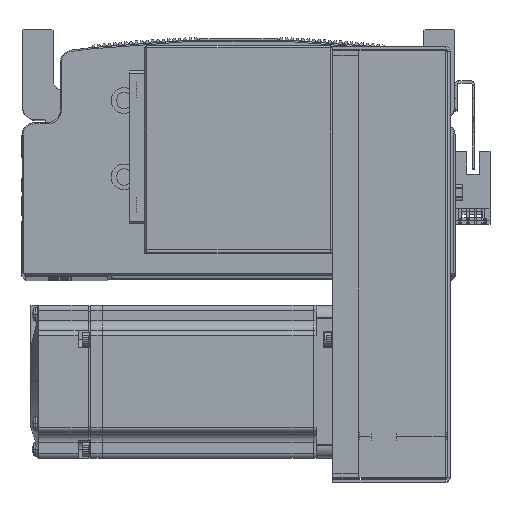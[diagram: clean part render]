
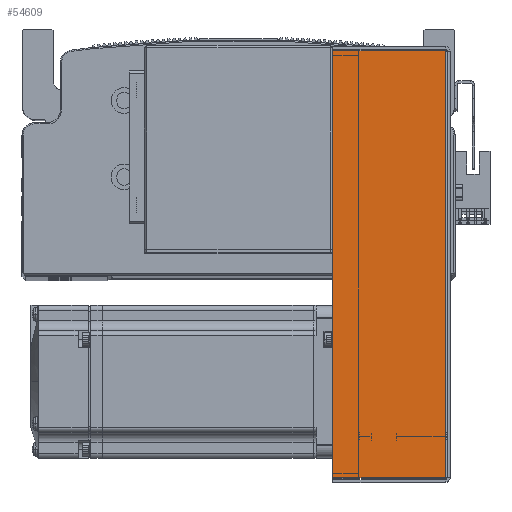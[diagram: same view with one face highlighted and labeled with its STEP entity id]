
A CAD part, top view. The second image highlights one B-rep face of the part: STEP entity #54609.
In plain terms, the highlighted planar face has unit normal (0, 0, 1) as drawn and (0, 0, -1) by its records, which use the part's own axes.
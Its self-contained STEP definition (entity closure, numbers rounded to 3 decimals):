
#11266 = LINE ( 'NONE', #18617, #11268 ) ;
#11267 = VECTOR ( 'NONE', #18494, 1000. ) ;
#11268 = VECTOR ( 'NONE', #18633, 1000. ) ;
#11289 = LINE ( 'NONE', #18471, #11267 ) ;
#11350 = VECTOR ( 'NONE', #19042, 1000. ) ;
#11361 = LINE ( 'NONE', #19129, #11350 ) ;
#11482 = VECTOR ( 'NONE', #20026, 1000. ) ;
#11496 = LINE ( 'NONE', #19878, #11482 ) ;
#18471 = CARTESIAN_POINT ( 'NONE',  ( 83.793, 0., -40.5 ) ) ;
#18494 = DIRECTION ( 'NONE',  ( 0., 1., 0. ) ) ;
#18617 = CARTESIAN_POINT ( 'NONE',  ( -83.793, 0., -40.5 ) ) ;
#18633 = DIRECTION ( 'NONE',  ( 0., 1., 0. ) ) ;
#18651 = FACE_OUTER_BOUND ( 'NONE', #50451, .T. ) ;
#19042 = DIRECTION ( 'NONE',  ( 1., 0., 0. ) ) ;
#19129 = CARTESIAN_POINT ( 'NONE',  ( 84.5, 45., -40.5 ) ) ;
#19878 = CARTESIAN_POINT ( 'NONE',  ( 0., 0.737, -40.5 ) ) ;
#20026 = DIRECTION ( 'NONE',  ( 1., 0., 0. ) ) ;
#33931 = CARTESIAN_POINT ( 'NONE',  ( 83.793, 0.737, -40.5 ) ) ;
#33955 = CARTESIAN_POINT ( 'NONE',  ( -83.793, 45., -40.5 ) ) ;
#33990 = CARTESIAN_POINT ( 'NONE',  ( -83.793, 0.737, -40.5 ) ) ;
#34008 = CARTESIAN_POINT ( 'NONE',  ( 83.793, 45., -40.5 ) ) ;
#38412 = DIRECTION ( 'NONE',  ( 0., -1., 0. ) ) ;
#38459 = PLANE ( 'NONE',  #42799 ) ;
#38463 = DIRECTION ( 'NONE',  ( 0., 0., 1. ) ) ;
#38469 = CARTESIAN_POINT ( 'NONE',  ( 0., 0., -40.5 ) ) ;
#42799 = AXIS2_PLACEMENT_3D ( 'NONE', #38469, #38463, #38412 ) ;
#50451 = EDGE_LOOP ( 'NONE', ( #77442, #77396, #77410, #77420 ) ) ;
#54609 = ADVANCED_FACE ( 'NONE', ( #18651 ), #38459, .F. ) ;
#59151 = VERTEX_POINT ( 'NONE', #33931 ) ;
#59152 = VERTEX_POINT ( 'NONE', #33955 ) ;
#59177 = VERTEX_POINT ( 'NONE', #33990 ) ;
#59198 = VERTEX_POINT ( 'NONE', #34008 ) ;
#61757 = EDGE_CURVE ( 'NONE', #59151, #59198, #11289, .T. ) ;
#61813 = EDGE_CURVE ( 'NONE', #59177, #59152, #11266, .T. ) ;
#61926 = EDGE_CURVE ( 'NONE', #59152, #59198, #11361, .T. ) ;
#61979 = EDGE_CURVE ( 'NONE', #59177, #59151, #11496, .T. ) ;
#77396 = ORIENTED_EDGE ( 'NONE', *, *, #61813, .T. ) ;
#77410 = ORIENTED_EDGE ( 'NONE', *, *, #61926, .T. ) ;
#77420 = ORIENTED_EDGE ( 'NONE', *, *, #61757, .F. ) ;
#77442 = ORIENTED_EDGE ( 'NONE', *, *, #61979, .F. ) ;
